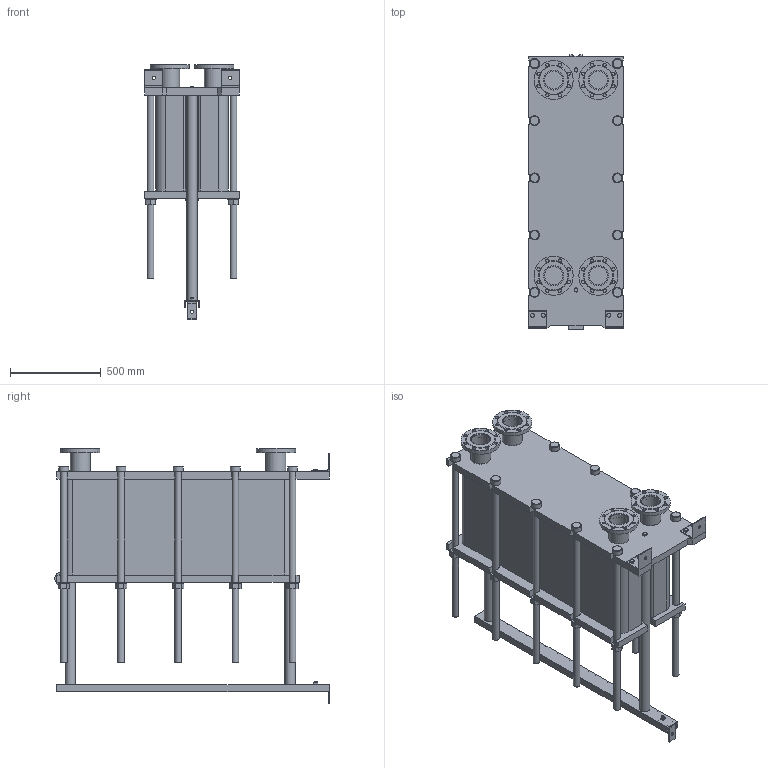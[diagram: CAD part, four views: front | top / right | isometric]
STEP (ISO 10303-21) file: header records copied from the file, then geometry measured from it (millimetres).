
FILE_DESCRIPTION(/* description */ (''),/* implementation_level */ '2;1');
FILE_NAME(/* name */ 'C:\Users\zhuro\Desktop\ENCO\TO\ЭН-04\ЭН-0,5-04-153-1.stp',/* time_stamp */ '2022-06-06T10:59:01+03:00',/* author */ ('zhuro'),/* organization */ (''),/* preprocessor_version */ 'ST-DEVELOPER v18.1',/* originating_system */ 'Autodesk Inventor 2022',/* authorisation */ '');
FILE_SCHEMA (('AUTOMOTIVE_DESIGN { 1 0 10303 214 3 1 1 }'));
Length unit declared in the file: millimetre
Products named in the file (1): ЭН-0,5-04-153-1
Bounding box: 520 x 1510 x 1406.5 mm (x, y, z)
Volume: 337855163.8 mm3; surface area: 9520737 mm2
Topology: 45 solids, 45 shells, 668 faces, 1611 edges, 1048 vertices
Faces by surface type: plane 457, cylinder 166, cone 39, torus 6
Full cylindrical faces by diameter (mm): 8 x4, 10 x2, 16 x8, 18 x35, 36 x25, 40 x2, 42 x1, 45 x4, 54 x10, 57 x2, 60 x10, 68 x2, 100 x4, 110 x8, 215 x4
Entity records: 23607 total; most frequent: CARTESIAN_POINT 7348, DIRECTION 3371, ORIENTED_EDGE 3142, EDGE_CURVE 1571, AXIS2_PLACEMENT_3D 1199, VERTEX_POINT 1044, LINE 973, VECTOR 973
